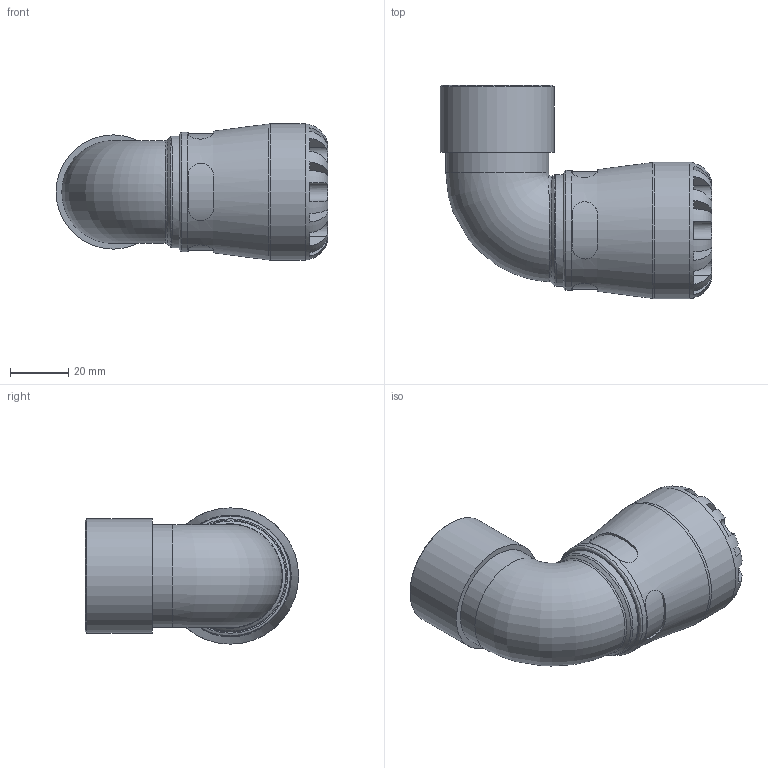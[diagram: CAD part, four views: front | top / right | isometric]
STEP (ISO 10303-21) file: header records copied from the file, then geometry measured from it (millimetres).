
FILE_DESCRIPTION(/* description */ ('PLASSON 90° ELBOW WITH THREADED FEMALE OFFTAKE 25X1" SERIES 1'),/* implementation_level */ '2;1');
FILE_NAME(/* name */ 'C:\Dropbox\KIMPROJECTS-Inventor\99-16-3568-Processing\S1\1015\101500025010_191500025010.ipt.stp',/* time_stamp */ '2017-07-30T11:51:57+03:00',/* author */ ('KIM'),/* organization */ (''),/* preprocessor_version */ 'ST-DEVELOPER v15.6',/* originating_system */ 'Autodesk Inventor 2015',/* authorisation */ '');
FILE_SCHEMA (('AUTOMOTIVE_DESIGN { 1 0 10303 214 3 1 1 }'));
Length unit declared in the file: millimetre
Products named in the file (1): 101500025010_191500025010
Bounding box: 93.69 x 73.5 x 47 mm (x, y, z)
Volume: 79482.7 mm3; surface area: 27507.3 mm2
Topology: 1 solids, 1 shells, 110 faces, 269 edges, 168 vertices
Faces by surface type: plane 62, cylinder 37, torus 6, bspline 3, cone 2
Full cylindrical faces by diameter (mm): 25 x1, 27.262 x2, 30.291 x1, 35.44 x1, 38.54 x1, 39.378 x1, 41.36 x1, 47 x1
Entity records: 4237 total; most frequent: CARTESIAN_POINT 1807, ORIENTED_EDGE 488, DIRECTION 487, EDGE_CURVE 244, AXIS2_PLACEMENT_3D 203, VERTEX_POINT 161, EDGE_LOOP 137, FACE_OUTER_BOUND 110
